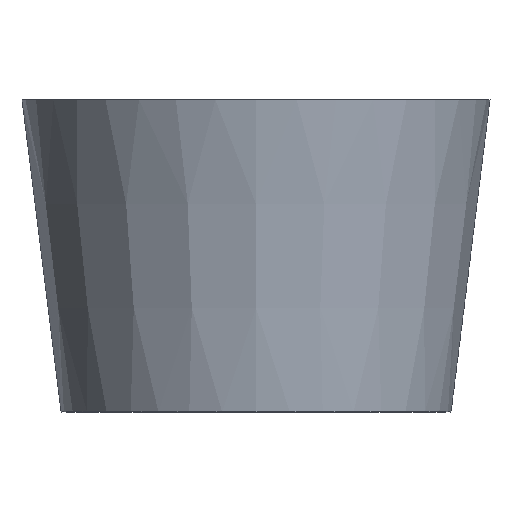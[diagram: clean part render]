
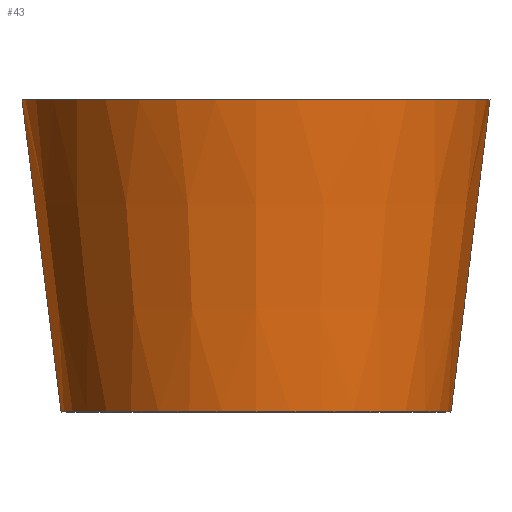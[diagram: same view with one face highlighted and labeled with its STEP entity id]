
A CAD part, front view. The second image highlights one B-rep face of the part: STEP entity #43.
In plain terms, the highlighted conical face has half-angle 7.125 degrees and reference radius 31.75 mm.
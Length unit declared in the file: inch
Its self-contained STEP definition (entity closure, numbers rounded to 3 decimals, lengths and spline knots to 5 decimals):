
#2 = CARTESIAN_POINT ( 'NONE',  ( -1.25, 0., -2. ) ) ;
#11 = EDGE_CURVE ( 'NONE', #222, #138, #186, .T. ) ;
#14 = DIRECTION ( 'NONE',  ( 1., 0., 0. ) ) ;
#15 = CARTESIAN_POINT ( 'NONE',  ( 0., 0., -2. ) ) ;
#16 = CARTESIAN_POINT ( 'NONE',  ( 0., 0., 0. ) ) ;
#18 = DIRECTION ( 'NONE',  ( 1., 0., 0. ) ) ;
#19 = DIRECTION ( 'NONE',  ( 0., 0., 1. ) ) ;
#28 = VECTOR ( 'NONE', #69, 39.37008 ) ;
#29 = FACE_OUTER_BOUND ( 'NONE', #221, .T. ) ;
#35 = DIRECTION ( 'NONE',  ( 1., 0., 0. ) ) ;
#36 = CARTESIAN_POINT ( 'NONE',  ( 1.25, 0., -2. ) ) ;
#43 = ADVANCED_FACE ( 'NONE', ( #29 ), #165, .T. ) ;
#47 = ORIENTED_EDGE ( 'NONE', *, *, #158, .T. ) ;
#51 = CARTESIAN_POINT ( 'NONE',  ( -1.25, 0., -2. ) ) ;
#64 = ORIENTED_EDGE ( 'NONE', *, *, #96, .F. ) ;
#66 = VECTOR ( 'NONE', #220, 39.37008 ) ;
#69 = DIRECTION ( 'NONE',  ( 0.124, 0., 0.992 ) ) ;
#72 = AXIS2_PLACEMENT_3D ( 'NONE', #150, #181, #18 ) ;
#76 = VERTEX_POINT ( 'NONE', #202 ) ;
#83 = AXIS2_PLACEMENT_3D ( 'NONE', #16, #19, #35 ) ;
#93 = CARTESIAN_POINT ( 'NONE',  ( 1.5, 0., 0. ) ) ;
#96 = EDGE_CURVE ( 'NONE', #138, #123, #151, .T. ) ;
#116 = LINE ( 'NONE', #36, #28 ) ;
#118 = EDGE_CURVE ( 'NONE', #222, #76, #132, .T. ) ;
#123 = VERTEX_POINT ( 'NONE', #93 ) ;
#132 = CIRCLE ( 'NONE', #72, 1.25 ) ;
#138 = VERTEX_POINT ( 'NONE', #195 ) ;
#142 = DIRECTION ( 'NONE',  ( 0., 0., 1. ) ) ;
#150 = CARTESIAN_POINT ( 'NONE',  ( 0., 0., -2. ) ) ;
#151 = CIRCLE ( 'NONE', #83, 1.5 ) ;
#158 = EDGE_CURVE ( 'NONE', #76, #123, #116, .T. ) ;
#160 = ORIENTED_EDGE ( 'NONE', *, *, #118, .T. ) ;
#165 = CONICAL_SURFACE ( 'NONE', #205, 1.25, 0.124 ) ;
#173 = ORIENTED_EDGE ( 'NONE', *, *, #11, .F. ) ;
#181 = DIRECTION ( 'NONE',  ( 0., 0., 1. ) ) ;
#186 = LINE ( 'NONE', #51, #66 ) ;
#195 = CARTESIAN_POINT ( 'NONE',  ( -1.5, 0., 0. ) ) ;
#202 = CARTESIAN_POINT ( 'NONE',  ( 1.25, 0., -2. ) ) ;
#205 = AXIS2_PLACEMENT_3D ( 'NONE', #15, #142, #14 ) ;
#220 = DIRECTION ( 'NONE',  ( -0.124, 0., 0.992 ) ) ;
#221 = EDGE_LOOP ( 'NONE', ( #173, #160, #47, #64 ) ) ;
#222 = VERTEX_POINT ( 'NONE', #2 ) ;
